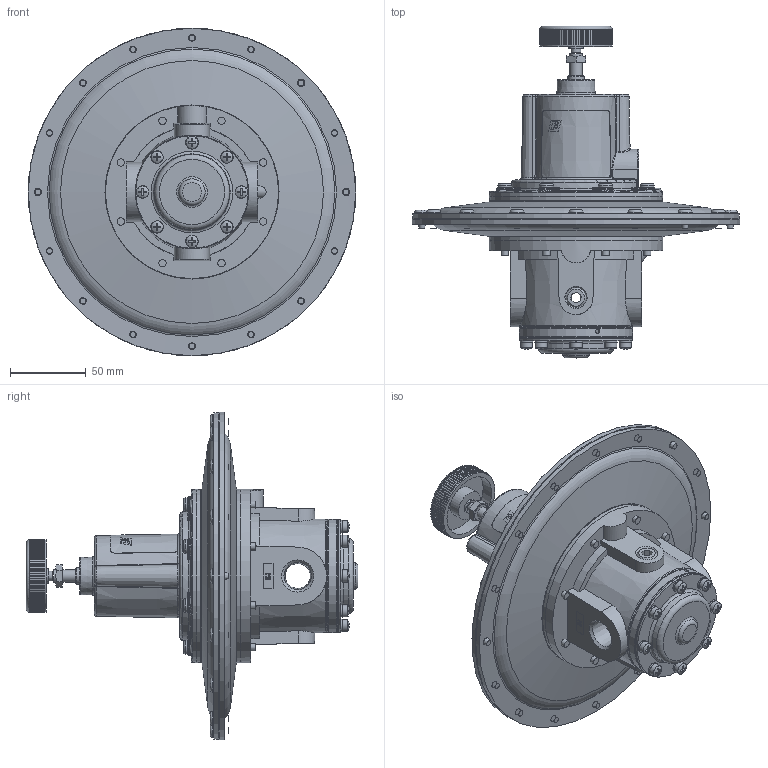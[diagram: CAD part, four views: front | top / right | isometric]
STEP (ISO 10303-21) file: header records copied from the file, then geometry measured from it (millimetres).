
FILE_DESCRIPTION(/* description */ ('STEP AP203'),/* implementation_level */ '2;1');
FILE_NAME(/* name */ 'C:\Users\ttang\Equilibar Network Dropbox\Models\Other\Fairchild\Series 41\4116ANNKS (Generic).stp',/* time_stamp */ '2022-09-13T09:47:51-04:00',/* author */ ('ttang'),/* organization */ (''),/* preprocessor_version */ 'ST-DEVELOPER v18.1',/* originating_system */ 'Autodesk Inventor 2021',/* authorisation */ '');
FILE_SCHEMA (('AUTOMOTIVE_DESIGN { 1 0 10303 214 3 1 1 }'));
Length unit declared in the file: inch
Products named in the file (1): 4116ANNKS
Bounding box: 215.9 x 218.73 x 215.9 mm (x, y, z)
Surface area: 214083.1 mm2 (no closed solid volume)
Topology: 0 solids, 94 shells, 1020 faces, 3542 edges, 2481 vertices
Faces by surface type: plane 608, cylinder 128, bspline 106, cone 87, torus 81, sphere 10
Full cylindrical faces by diameter (mm): 2.946 x1, 4.826 x8, 6.35 x1, 7.938 x1, 7.95 x8, 8.484 x1, 9.271 x24, 9.449 x1, 11.049 x1, 11.43 x1, 20.32 x1, 35.56 x1, 41.656 x1, 47.752 x1, 74.295 x1, 74.676 x1, 114.3 x1, 215.9 x1
Entity records: 51067 total; most frequent: CARTESIAN_POINT 21208, DIRECTION 6179, ORIENTED_EDGE 5462, EDGE_CURVE 3535, VERTEX_POINT 2481, AXIS2_PLACEMENT_3D 2143, LINE 1893, VECTOR 1893
